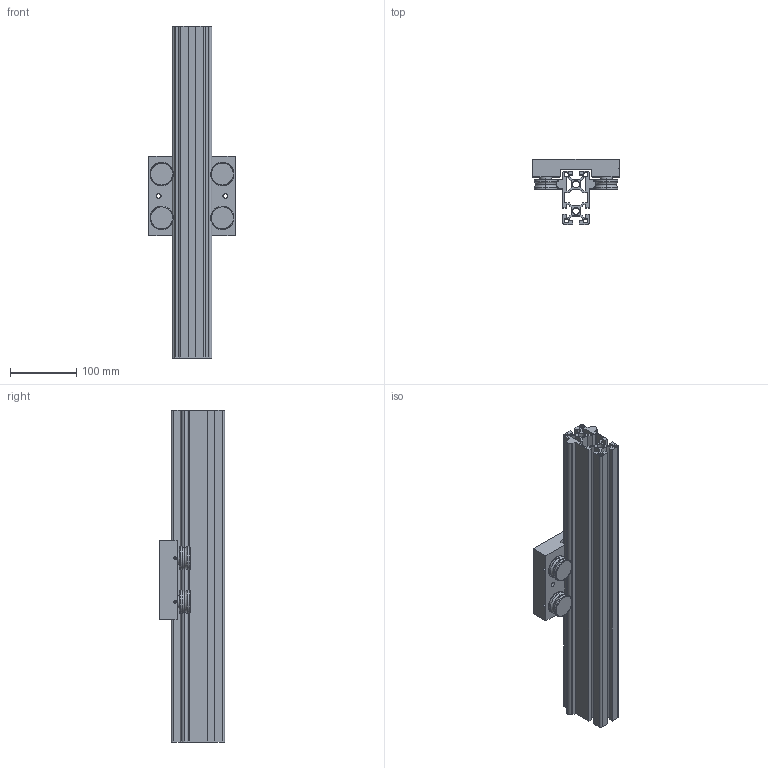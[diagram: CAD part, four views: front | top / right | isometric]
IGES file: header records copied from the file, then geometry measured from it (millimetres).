
Start section: SolidWorks IGES file using analytic representation for surfaces
Bounding box: 130 x 98 x 500 mm (x, y, z)
Surface area: 473161.8 mm2 (no closed solid volume)
Topology: 0 solids, 0 shells, 398 faces, 5686 edges, 5686 vertices
Faces by surface type: bspline 217, revolution 181
